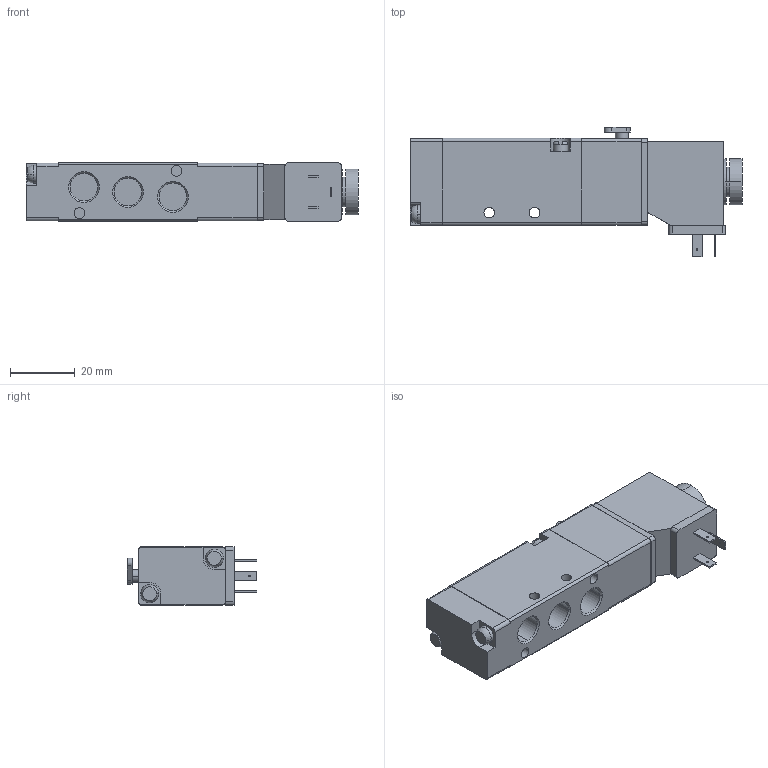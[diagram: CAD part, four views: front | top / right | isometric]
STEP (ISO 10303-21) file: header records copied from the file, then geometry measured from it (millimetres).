
FILE_DESCRIPTION (( 'STEP AP203' ), '1' );
FILE_NAME ('VB5211-5D-01.STEP', '2021-11-26T10:49:43', ( '' ), ( '' ), 'SwSTEP 2.0', 'SolidWorks 2019', '' );
FILE_SCHEMA (( 'CONFIG_CONTROL_DESIGN' ));
Length unit declared in the file: millimetre
Products named in the file (1): VB5211-5D-01
Bounding box: 102.6 x 40 x 18 mm (x, y, z)
Volume: 43864.9 mm3; surface area: 12457 mm2
Topology: 1 solids, 1 shells, 190 faces, 476 edges, 306 vertices
Faces by surface type: plane 99, cylinder 69, cone 10, torus 8, sphere 4
Entity records: 5913 total; most frequent: CARTESIAN_POINT 1145, DIRECTION 1022, ORIENTED_EDGE 944, EDGE_CURVE 472, AXIS2_PLACEMENT_3D 375, VERTEX_POINT 306, VECTOR 272, LINE 272
